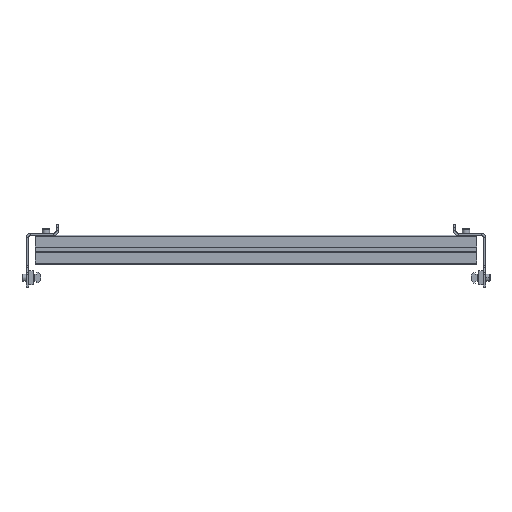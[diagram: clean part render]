
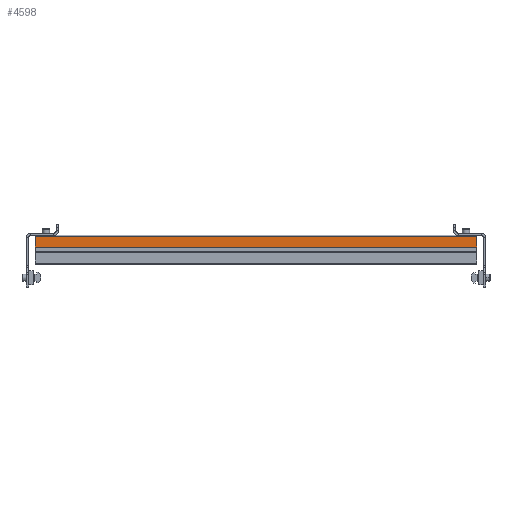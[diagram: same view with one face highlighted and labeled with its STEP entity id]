
A CAD part, top view. The second image highlights one B-rep face of the part: STEP entity #4598.
In plain terms, the highlighted planar face has unit normal (0, 0, 1) as drawn and (0, 1, 0) by its records, which use the part's own axes.
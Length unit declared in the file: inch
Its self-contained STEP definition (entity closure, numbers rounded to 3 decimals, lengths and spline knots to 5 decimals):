
#147 = DIRECTION ( 'NONE',  ( 1., 0., 0. ) ) ;
#470 = CARTESIAN_POINT ( 'NONE',  ( -0.14758, 0.441, -11.98 ) ) ;
#578 = DIRECTION ( 'NONE',  ( 0., 0., 1. ) ) ;
#615 = EDGE_CURVE ( 'NONE', #5455, #2949, #4905, .T. ) ;
#1303 = FACE_OUTER_BOUND ( 'NONE', #6802, .T. ) ;
#1493 = DIRECTION ( 'NONE',  ( 0., 0., -1. ) ) ;
#1631 = LINE ( 'NONE', #3739, #1644 ) ;
#1644 = VECTOR ( 'NONE', #578, 39.37008 ) ;
#1867 = EDGE_CURVE ( 'NONE', #2949, #5934, #5177, .T. ) ;
#1913 = ORIENTED_EDGE ( 'NONE', *, *, #2377, .T. ) ;
#1936 = VERTEX_POINT ( 'NONE', #7869 ) ;
#2030 = ORIENTED_EDGE ( 'NONE', *, *, #8148, .F. ) ;
#2084 = CARTESIAN_POINT ( 'NONE',  ( -0.7875, 0.441, 75. ) ) ;
#2123 = CARTESIAN_POINT ( 'NONE',  ( -0.14758, 0.441, 11.98 ) ) ;
#2377 = EDGE_CURVE ( 'NONE', #1936, #5934, #1631, .T. ) ;
#2710 = CARTESIAN_POINT ( 'NONE',  ( -0.725, 0.441, 11.98 ) ) ;
#2949 = VERTEX_POINT ( 'NONE', #2123 ) ;
#3455 = DIRECTION ( 'NONE',  ( 0., 0., 1. ) ) ;
#3493 = VECTOR ( 'NONE', #3455, 39.37008 ) ;
#3739 = CARTESIAN_POINT ( 'NONE',  ( -0.725, 0.441, 75. ) ) ;
#4244 = LINE ( 'NONE', #8294, #6236 ) ;
#4598 = ADVANCED_FACE ( 'NONE', ( #1303 ), #7967, .F. ) ;
#4602 = CARTESIAN_POINT ( 'NONE',  ( 0.7875, 0.441, 11.98 ) ) ;
#4905 = LINE ( 'NONE', #7990, #3493 ) ;
#5177 = LINE ( 'NONE', #4602, #5887 ) ;
#5269 = ORIENTED_EDGE ( 'NONE', *, *, #1867, .F. ) ;
#5455 = VERTEX_POINT ( 'NONE', #470 ) ;
#5887 = VECTOR ( 'NONE', #7099, 39.37008 ) ;
#5934 = VERTEX_POINT ( 'NONE', #2710 ) ;
#6236 = VECTOR ( 'NONE', #147, 39.37008 ) ;
#6802 = EDGE_LOOP ( 'NONE', ( #8157, #2030, #1913, #5269 ) ) ;
#6846 = AXIS2_PLACEMENT_3D ( 'NONE', #2084, #7313, #1493 ) ;
#7099 = DIRECTION ( 'NONE',  ( -1., 0., 0. ) ) ;
#7313 = DIRECTION ( 'NONE',  ( 0., -1., 0. ) ) ;
#7869 = CARTESIAN_POINT ( 'NONE',  ( -0.725, 0.441, -11.98 ) ) ;
#7967 = PLANE ( 'NONE',  #6846 ) ;
#7990 = CARTESIAN_POINT ( 'NONE',  ( -0.14758, 0.441, -75. ) ) ;
#8148 = EDGE_CURVE ( 'NONE', #1936, #5455, #4244, .T. ) ;
#8157 = ORIENTED_EDGE ( 'NONE', *, *, #615, .F. ) ;
#8294 = CARTESIAN_POINT ( 'NONE',  ( 0.7875, 0.441, -11.98 ) ) ;
